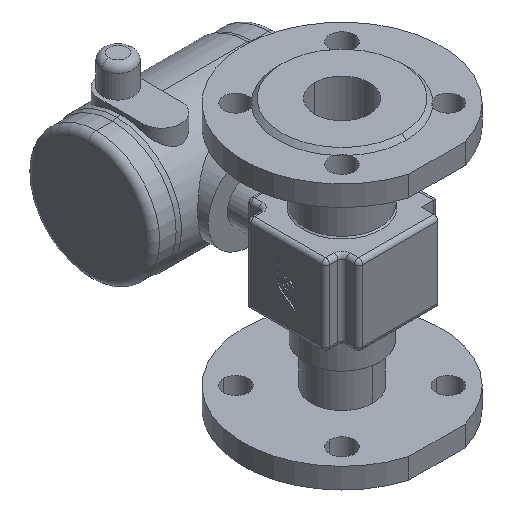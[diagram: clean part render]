
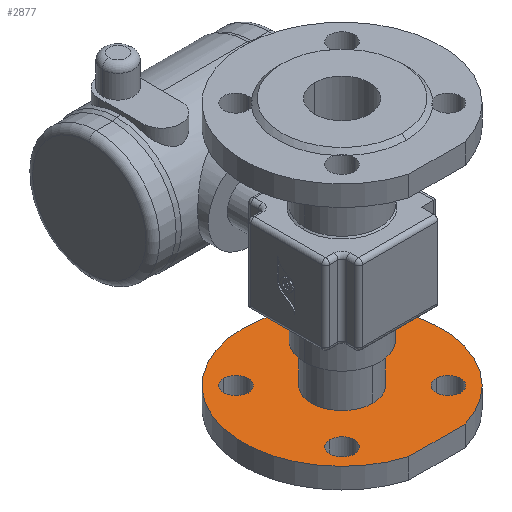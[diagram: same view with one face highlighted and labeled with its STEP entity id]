
A CAD part, isometric view. The second image highlights one B-rep face of the part: STEP entity #2877.
In plain terms, the highlighted planar face has unit normal (0, 0, 1).
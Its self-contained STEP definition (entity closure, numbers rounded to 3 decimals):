
#79 = VERTEX_POINT ( 'NONE', #3923 ) ;
#90 = CARTESIAN_POINT ( 'NONE',  ( 0., 0., -167. ) ) ;
#124 = CARTESIAN_POINT ( 'NONE',  ( 0., 72.5, -167. ) ) ;
#162 = VERTEX_POINT ( 'NONE', #3371 ) ;
#173 = FACE_BOUND ( 'NONE', #5739, .T. ) ;
#175 = DIRECTION ( 'NONE',  ( 0., 0., -1. ) ) ;
#227 = DIRECTION ( 'NONE',  ( 0., 0., -1. ) ) ;
#254 = DIRECTION ( 'NONE',  ( 1., 0., 0. ) ) ;
#255 = CARTESIAN_POINT ( 'NONE',  ( -38.891, 38.891, -167. ) ) ;
#453 = ORIENTED_EDGE ( 'NONE', *, *, #4259, .F. ) ;
#507 = CARTESIAN_POINT ( 'NONE',  ( -38.891, -38.891, -167. ) ) ;
#533 = DIRECTION ( 'NONE',  ( 0., -1., 0. ) ) ;
#564 = DIRECTION ( 'NONE',  ( 0., 1., 0. ) ) ;
#611 = DIRECTION ( 'NONE',  ( 0., -1., 0. ) ) ;
#628 = EDGE_CURVE ( 'NONE', #3460, #4657, #3465, .T. ) ;
#651 = VERTEX_POINT ( 'NONE', #3473 ) ;
#681 = CARTESIAN_POINT ( 'NONE',  ( 38.891, -38.891, -167. ) ) ;
#700 = VERTEX_POINT ( 'NONE', #3002 ) ;
#704 = CARTESIAN_POINT ( 'NONE',  ( -38.891, -29.891, -167. ) ) ;
#720 = CIRCLE ( 'NONE', #1645, 9. ) ;
#722 = DIRECTION ( 'NONE',  ( 0., -1., 0. ) ) ;
#813 = VERTEX_POINT ( 'NONE', #1722 ) ;
#932 = CARTESIAN_POINT ( 'NONE',  ( 38.891, -29.891, -167. ) ) ;
#966 = ORIENTED_EDGE ( 'NONE', *, *, #6192, .T. ) ;
#977 = DIRECTION ( 'NONE',  ( 0., -1., 0. ) ) ;
#1024 = DIRECTION ( 'NONE',  ( 0., -1., 0. ) ) ;
#1055 = AXIS2_PLACEMENT_3D ( 'NONE', #507, #3850, #977 ) ;
#1194 = EDGE_CURVE ( 'NONE', #813, #79, #2536, .T. ) ;
#1203 = EDGE_LOOP ( 'NONE', ( #3895, #1622 ) ) ;
#1255 = ORIENTED_EDGE ( 'NONE', *, *, #2046, .T. ) ;
#1363 = EDGE_CURVE ( 'NONE', #4403, #700, #5685, .T. ) ;
#1383 = EDGE_LOOP ( 'NONE', ( #5272, #3817 ) ) ;
#1393 = ORIENTED_EDGE ( 'NONE', *, *, #1194, .F. ) ;
#1416 = FACE_BOUND ( 'NONE', #1203, .T. ) ;
#1528 = CIRCLE ( 'NONE', #3777, 9. ) ;
#1550 = DIRECTION ( 'NONE',  ( 0., 0., -1. ) ) ;
#1622 = ORIENTED_EDGE ( 'NONE', *, *, #4701, .T. ) ;
#1645 = AXIS2_PLACEMENT_3D ( 'NONE', #1827, #5235, #2298 ) ;
#1695 = AXIS2_PLACEMENT_3D ( 'NONE', #1964, #5387, #2447 ) ;
#1722 = CARTESIAN_POINT ( 'NONE',  ( 0., 72.5, -167. ) ) ;
#1723 = VERTEX_POINT ( 'NONE', #932 ) ;
#1725 = EDGE_CURVE ( 'NONE', #4657, #3460, #3294, .T. ) ;
#1754 = CIRCLE ( 'NONE', #5752, 9. ) ;
#1812 = CIRCLE ( 'NONE', #3405, 9. ) ;
#1823 = CARTESIAN_POINT ( 'NONE',  ( 38.891, -47.891, -167. ) ) ;
#1827 = CARTESIAN_POINT ( 'NONE',  ( 38.891, -38.891, -167. ) ) ;
#1846 = VECTOR ( 'NONE', #254, 1000. ) ;
#1909 = CARTESIAN_POINT ( 'NONE',  ( 0., 0., -167. ) ) ;
#1964 = CARTESIAN_POINT ( 'NONE',  ( 38.891, 38.891, -167. ) ) ;
#1970 = CARTESIAN_POINT ( 'NONE',  ( -38.891, 29.891, -167. ) ) ;
#1977 = CARTESIAN_POINT ( 'NONE',  ( -38.891, -38.891, -167. ) ) ;
#2023 = DIRECTION ( 'NONE',  ( 0., 0., -1. ) ) ;
#2036 = EDGE_LOOP ( 'NONE', ( #6096, #1393, #453 ) ) ;
#2046 = EDGE_CURVE ( 'NONE', #5535, #651, #2384, .T. ) ;
#2088 = DIRECTION ( 'NONE',  ( 0., 1., 0. ) ) ;
#2109 = CIRCLE ( 'NONE', #3624, 72.5 ) ;
#2133 = AXIS2_PLACEMENT_3D ( 'NONE', #5999, #175, #533 ) ;
#2185 = EDGE_CURVE ( 'NONE', #1723, #5944, #1528, .T. ) ;
#2195 = DIRECTION ( 'NONE',  ( 0., 0., -1. ) ) ;
#2239 = CARTESIAN_POINT ( 'NONE',  ( 0., 0., -167. ) ) ;
#2298 = DIRECTION ( 'NONE',  ( 0., -1., 0. ) ) ;
#2384 = CIRCLE ( 'NONE', #2133, 9. ) ;
#2400 = CARTESIAN_POINT ( 'NONE',  ( -38.891, 38.891, -167. ) ) ;
#2447 = DIRECTION ( 'NONE',  ( 0., -1., 0. ) ) ;
#2501 = AXIS2_PLACEMENT_3D ( 'NONE', #1909, #2023, #2088 ) ;
#2519 = CARTESIAN_POINT ( 'NONE',  ( 38.891, 29.891, -167. ) ) ;
#2527 = FACE_BOUND ( 'NONE', #1383, .T. ) ;
#2529 = DIRECTION ( 'NONE',  ( 0., -1., 0. ) ) ;
#2536 = CIRCLE ( 'NONE', #4041, 72.5 ) ;
#2567 = CIRCLE ( 'NONE', #1055, 9. ) ;
#2678 = FACE_OUTER_BOUND ( 'NONE', #2036, .T. ) ;
#2727 = EDGE_CURVE ( 'NONE', #2859, #5321, #1812, .T. ) ;
#2817 = EDGE_LOOP ( 'NONE', ( #3274, #4881 ) ) ;
#2859 = VERTEX_POINT ( 'NONE', #1970 ) ;
#2877 = ADVANCED_FACE ( 'NONE', ( #2678, #3837, #1416, #3372, #173, #2527 ), #5898, .T. ) ;
#2883 = DIRECTION ( 'NONE',  ( 0., -1., 0. ) ) ;
#2921 = DIRECTION ( 'NONE',  ( 0., 0., -1. ) ) ;
#2977 = LINE ( 'NONE', #3086, #1846 ) ;
#3002 = CARTESIAN_POINT ( 'NONE',  ( -38.891, -47.891, -167. ) ) ;
#3043 = ORIENTED_EDGE ( 'NONE', *, *, #3711, .T. ) ;
#3086 = CARTESIAN_POINT ( 'NONE',  ( 20.64, -69.5, -167. ) ) ;
#3199 = EDGE_CURVE ( 'NONE', #162, #79, #2977, .T. ) ;
#3234 = EDGE_LOOP ( 'NONE', ( #3043, #4516 ) ) ;
#3274 = ORIENTED_EDGE ( 'NONE', *, *, #1363, .T. ) ;
#3294 = CIRCLE ( 'NONE', #4882, 22.5 ) ;
#3325 = CIRCLE ( 'NONE', #1695, 9. ) ;
#3371 = CARTESIAN_POINT ( 'NONE',  ( -20.64, -69.5, -167. ) ) ;
#3372 = FACE_BOUND ( 'NONE', #3234, .T. ) ;
#3405 = AXIS2_PLACEMENT_3D ( 'NONE', #255, #3581, #722 ) ;
#3410 = DIRECTION ( 'NONE',  ( 0., 0., -1. ) ) ;
#3460 = VERTEX_POINT ( 'NONE', #4771 ) ;
#3465 = CIRCLE ( 'NONE', #2501, 22.5 ) ;
#3473 = CARTESIAN_POINT ( 'NONE',  ( 38.891, 47.891, -167. ) ) ;
#3581 = DIRECTION ( 'NONE',  ( 0., 0., -1. ) ) ;
#3624 = AXIS2_PLACEMENT_3D ( 'NONE', #90, #3410, #564 ) ;
#3711 = EDGE_CURVE ( 'NONE', #5321, #2859, #1754, .T. ) ;
#3738 = DIRECTION ( 'NONE',  ( 0., 1., 0. ) ) ;
#3777 = AXIS2_PLACEMENT_3D ( 'NONE', #681, #227, #2529 ) ;
#3817 = ORIENTED_EDGE ( 'NONE', *, *, #1725, .T. ) ;
#3837 = FACE_BOUND ( 'NONE', #2817, .T. ) ;
#3850 = DIRECTION ( 'NONE',  ( 0., 0., -1. ) ) ;
#3895 = ORIENTED_EDGE ( 'NONE', *, *, #2185, .T. ) ;
#3923 = CARTESIAN_POINT ( 'NONE',  ( 20.64, -69.5, -167. ) ) ;
#3939 = DIRECTION ( 'NONE',  ( 0., 0., 1. ) ) ;
#3953 = AXIS2_PLACEMENT_3D ( 'NONE', #124, #3939, #611 ) ;
#4041 = AXIS2_PLACEMENT_3D ( 'NONE', #2239, #2195, #6110 ) ;
#4202 = EDGE_CURVE ( 'NONE', #700, #4403, #2567, .T. ) ;
#4225 = CARTESIAN_POINT ( 'NONE',  ( 0., -22.5, -167. ) ) ;
#4259 = EDGE_CURVE ( 'NONE', #162, #813, #2109, .T. ) ;
#4403 = VERTEX_POINT ( 'NONE', #704 ) ;
#4516 = ORIENTED_EDGE ( 'NONE', *, *, #2727, .T. ) ;
#4657 = VERTEX_POINT ( 'NONE', #4225 ) ;
#4701 = EDGE_CURVE ( 'NONE', #5944, #1723, #720, .T. ) ;
#4771 = CARTESIAN_POINT ( 'NONE',  ( 0., 22.5, -167. ) ) ;
#4881 = ORIENTED_EDGE ( 'NONE', *, *, #4202, .T. ) ;
#4882 = AXIS2_PLACEMENT_3D ( 'NONE', #5774, #2921, #3738 ) ;
#5235 = DIRECTION ( 'NONE',  ( 0., 0., -1. ) ) ;
#5272 = ORIENTED_EDGE ( 'NONE', *, *, #628, .T. ) ;
#5321 = VERTEX_POINT ( 'NONE', #5635 ) ;
#5387 = DIRECTION ( 'NONE',  ( 0., 0., -1. ) ) ;
#5535 = VERTEX_POINT ( 'NONE', #2519 ) ;
#5635 = CARTESIAN_POINT ( 'NONE',  ( -38.891, 47.891, -167. ) ) ;
#5679 = AXIS2_PLACEMENT_3D ( 'NONE', #1977, #1550, #1024 ) ;
#5685 = CIRCLE ( 'NONE', #5679, 9. ) ;
#5739 = EDGE_LOOP ( 'NONE', ( #966, #1255 ) ) ;
#5752 = AXIS2_PLACEMENT_3D ( 'NONE', #2400, #5822, #2883 ) ;
#5774 = CARTESIAN_POINT ( 'NONE',  ( 0., 0., -167. ) ) ;
#5822 = DIRECTION ( 'NONE',  ( 0., 0., -1. ) ) ;
#5898 = PLANE ( 'NONE',  #3953 ) ;
#5944 = VERTEX_POINT ( 'NONE', #1823 ) ;
#5999 = CARTESIAN_POINT ( 'NONE',  ( 38.891, 38.891, -167. ) ) ;
#6096 = ORIENTED_EDGE ( 'NONE', *, *, #3199, .T. ) ;
#6110 = DIRECTION ( 'NONE',  ( 0., 1., 0. ) ) ;
#6192 = EDGE_CURVE ( 'NONE', #651, #5535, #3325, .T. ) ;
